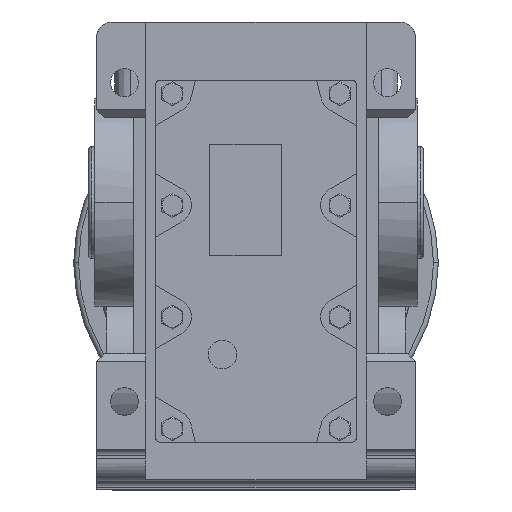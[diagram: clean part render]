
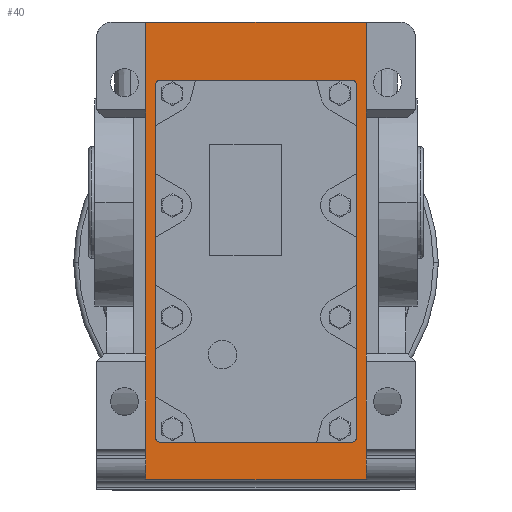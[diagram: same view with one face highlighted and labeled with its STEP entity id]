
A CAD part, top view. The second image highlights one B-rep face of the part: STEP entity #40.
In plain terms, the highlighted planar face has unit normal (0, 0, 1).
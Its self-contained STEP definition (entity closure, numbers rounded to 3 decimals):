
#40 = ADVANCED_FACE ( 'NONE', ( #23355, #23357 ), #27670, .T. ) ;
#2398 = AXIS2_PLACEMENT_3D ( 'NONE', #41035, #41036, #41037 ) ;
#2401 = AXIS2_PLACEMENT_3D ( 'NONE', #41044, #41045, #41046 ) ;
#2403 = AXIS2_PLACEMENT_3D ( 'NONE', #41053, #41054, #41055 ) ;
#2405 = AXIS2_PLACEMENT_3D ( 'NONE', #41063, #41064, #41065 ) ;
#7010 = VERTEX_POINT ( 'NONE', #15557 ) ;
#7021 = VERTEX_POINT ( 'NONE', #15570 ) ;
#10593 = CARTESIAN_POINT ( 'NONE',  ( -60., -150.5, 96.5 ) ) ;
#10597 = CARTESIAN_POINT ( 'NONE',  ( 60., 76.5, 96.5 ) ) ;
#10603 = CARTESIAN_POINT ( 'NONE',  ( -63., 73.5, 96.5 ) ) ;
#10606 = CARTESIAN_POINT ( 'NONE',  ( -69., -173.874, 96.5 ) ) ;
#10610 = CARTESIAN_POINT ( 'NONE',  ( -60., 76.5, 96.5 ) ) ;
#10612 = CARTESIAN_POINT ( 'NONE',  ( 63., -147.5, 96.5 ) ) ;
#10619 = CARTESIAN_POINT ( 'NONE',  ( 69., -173.874, 96.5 ) ) ;
#10632 = CARTESIAN_POINT ( 'NONE',  ( 63., 73.5, 96.5 ) ) ;
#10635 = CARTESIAN_POINT ( 'NONE',  ( 60., -150.5, 96.5 ) ) ;
#10653 = CARTESIAN_POINT ( 'NONE',  ( -63., -147.5, 96.5 ) ) ;
#15557 = CARTESIAN_POINT ( 'NONE',  ( 69., 113., 96.5 ) ) ;
#15570 = CARTESIAN_POINT ( 'NONE',  ( -69., 113., 96.5 ) ) ;
#16310 = EDGE_CURVE ( 'NONE', #34771, #34784, #39359, .T. ) ;
#16313 = EDGE_CURVE ( 'NONE', #34797, #34777, #39369, .T. ) ;
#16315 = EDGE_CURVE ( 'NONE', #34777, #34800, #39371, .T. ) ;
#16317 = EDGE_CURVE ( 'NONE', #34800, #34757, #39373, .T. ) ;
#16319 = EDGE_CURVE ( 'NONE', #34757, #34818, #39376, .T. ) ;
#16321 = EDGE_CURVE ( 'NONE', #34818, #34768, #39380, .T. ) ;
#16323 = EDGE_CURVE ( 'NONE', #34768, #34775, #39383, .T. ) ;
#16325 = EDGE_CURVE ( 'NONE', #34775, #34762, #39387, .T. ) ;
#16327 = EDGE_CURVE ( 'NONE', #34762, #34797, #39390, .T. ) ;
#16957 = AXIS2_PLACEMENT_3D ( 'NONE', #27664, #27673, #27659 ) ;
#23355 = FACE_BOUND ( 'NONE', #45922, .T. ) ;
#23357 = FACE_OUTER_BOUND ( 'NONE', #25544, .T. ) ;
#25544 = EDGE_LOOP ( 'NONE', ( #32925, #32926, #32927, #32928 ) ) ;
#27659 = DIRECTION ( 'NONE',  ( 1., 0., 0. ) ) ;
#27664 = CARTESIAN_POINT ( 'NONE',  ( -69., -173.874, 96.5 ) ) ;
#27670 = PLANE ( 'NONE',  #16957 ) ;
#27673 = DIRECTION ( 'NONE',  ( 0., 0., 1. ) ) ;
#29763 = LINE ( 'NONE', #31028, #29770 ) ;
#29768 = LINE ( 'NONE', #31030, #29774 ) ;
#29770 = VECTOR ( 'NONE', #31029, 1000. ) ;
#29772 = LINE ( 'NONE', #31032, #29779 ) ;
#29774 = VECTOR ( 'NONE', #31031, 1000. ) ;
#29779 = VECTOR ( 'NONE', #31033, 1000. ) ;
#31028 = CARTESIAN_POINT ( 'NONE',  ( 69., -173.874, 96.5 ) ) ;
#31029 = DIRECTION ( 'NONE',  ( 0., 1., 0. ) ) ;
#31030 = CARTESIAN_POINT ( 'NONE',  ( -69., 113., 96.5 ) ) ;
#31031 = DIRECTION ( 'NONE',  ( 0., -1., 0. ) ) ;
#31032 = CARTESIAN_POINT ( 'NONE',  ( 69., 113., 96.5 ) ) ;
#31033 = DIRECTION ( 'NONE',  ( -1., 0., 0. ) ) ;
#32917 = ORIENTED_EDGE ( 'NONE', *, *, #16313, .T. ) ;
#32918 = ORIENTED_EDGE ( 'NONE', *, *, #16315, .T. ) ;
#32919 = ORIENTED_EDGE ( 'NONE', *, *, #16317, .T. ) ;
#32920 = ORIENTED_EDGE ( 'NONE', *, *, #16319, .T. ) ;
#32921 = ORIENTED_EDGE ( 'NONE', *, *, #16321, .T. ) ;
#32922 = ORIENTED_EDGE ( 'NONE', *, *, #16323, .T. ) ;
#32923 = ORIENTED_EDGE ( 'NONE', *, *, #16325, .T. ) ;
#32924 = ORIENTED_EDGE ( 'NONE', *, *, #16327, .T. ) ;
#32925 = ORIENTED_EDGE ( 'NONE', *, *, #45818, .T. ) ;
#32926 = ORIENTED_EDGE ( 'NONE', *, *, #16310, .T. ) ;
#32927 = ORIENTED_EDGE ( 'NONE', *, *, #45817, .T. ) ;
#32928 = ORIENTED_EDGE ( 'NONE', *, *, #45819, .T. ) ;
#34757 = VERTEX_POINT ( 'NONE', #10593 ) ;
#34762 = VERTEX_POINT ( 'NONE', #10597 ) ;
#34768 = VERTEX_POINT ( 'NONE', #10603 ) ;
#34771 = VERTEX_POINT ( 'NONE', #10606 ) ;
#34775 = VERTEX_POINT ( 'NONE', #10610 ) ;
#34777 = VERTEX_POINT ( 'NONE', #10612 ) ;
#34784 = VERTEX_POINT ( 'NONE', #10619 ) ;
#34797 = VERTEX_POINT ( 'NONE', #10632 ) ;
#34800 = VERTEX_POINT ( 'NONE', #10635 ) ;
#34818 = VERTEX_POINT ( 'NONE', #10653 ) ;
#39359 = LINE ( 'NONE', #41020, #39366 ) ;
#39366 = VECTOR ( 'NONE', #41025, 1000. ) ;
#39369 = LINE ( 'NONE', #41029, #39372 ) ;
#39371 = CIRCLE ( 'NONE', #2398, 3. ) ;
#39372 = VECTOR ( 'NONE', #41031, 1000. ) ;
#39373 = LINE ( 'NONE', #41034, #39379 ) ;
#39376 = CIRCLE ( 'NONE', #2401, 3. ) ;
#39379 = VECTOR ( 'NONE', #41039, 1000. ) ;
#39380 = LINE ( 'NONE', #41043, #39386 ) ;
#39383 = CIRCLE ( 'NONE', #2403, 3. ) ;
#39386 = VECTOR ( 'NONE', #41048, 1000. ) ;
#39387 = LINE ( 'NONE', #41052, #39393 ) ;
#39390 = CIRCLE ( 'NONE', #2405, 3. ) ;
#39393 = VECTOR ( 'NONE', #41057, 1000. ) ;
#41020 = CARTESIAN_POINT ( 'NONE',  ( -69., -173.874, 96.5 ) ) ;
#41025 = DIRECTION ( 'NONE',  ( 1., 0., 0. ) ) ;
#41029 = CARTESIAN_POINT ( 'NONE',  ( 63., 73.5, 96.5 ) ) ;
#41031 = DIRECTION ( 'NONE',  ( 0., -1., 0. ) ) ;
#41034 = CARTESIAN_POINT ( 'NONE',  ( 60., -150.5, 96.5 ) ) ;
#41035 = CARTESIAN_POINT ( 'NONE',  ( 60., -147.5, 96.5 ) ) ;
#41036 = DIRECTION ( 'NONE',  ( 0., 0., -1. ) ) ;
#41037 = DIRECTION ( 'NONE',  ( 1., 0., 0. ) ) ;
#41039 = DIRECTION ( 'NONE',  ( -1., 0., 0. ) ) ;
#41043 = CARTESIAN_POINT ( 'NONE',  ( -63., -147.5, 96.5 ) ) ;
#41044 = CARTESIAN_POINT ( 'NONE',  ( -60., -147.5, 96.5 ) ) ;
#41045 = DIRECTION ( 'NONE',  ( 0., 0., -1. ) ) ;
#41046 = DIRECTION ( 'NONE',  ( 1., 0., 0. ) ) ;
#41048 = DIRECTION ( 'NONE',  ( 0., 1., 0. ) ) ;
#41052 = CARTESIAN_POINT ( 'NONE',  ( -60., 76.5, 96.5 ) ) ;
#41053 = CARTESIAN_POINT ( 'NONE',  ( -60., 73.5, 96.5 ) ) ;
#41054 = DIRECTION ( 'NONE',  ( 0., 0., -1. ) ) ;
#41055 = DIRECTION ( 'NONE',  ( 1., 0., 0. ) ) ;
#41057 = DIRECTION ( 'NONE',  ( 1., 0., 0. ) ) ;
#41063 = CARTESIAN_POINT ( 'NONE',  ( 60., 73.5, 96.5 ) ) ;
#41064 = DIRECTION ( 'NONE',  ( 0., 0., -1. ) ) ;
#41065 = DIRECTION ( 'NONE',  ( 1., 0., 0. ) ) ;
#45817 = EDGE_CURVE ( 'NONE', #34784, #7010, #29763, .T. ) ;
#45818 = EDGE_CURVE ( 'NONE', #7021, #34771, #29768, .T. ) ;
#45819 = EDGE_CURVE ( 'NONE', #7010, #7021, #29772, .T. ) ;
#45922 = EDGE_LOOP ( 'NONE', ( #32917, #32918, #32919, #32920, #32921, #32922, #32923, #32924 ) ) ;
